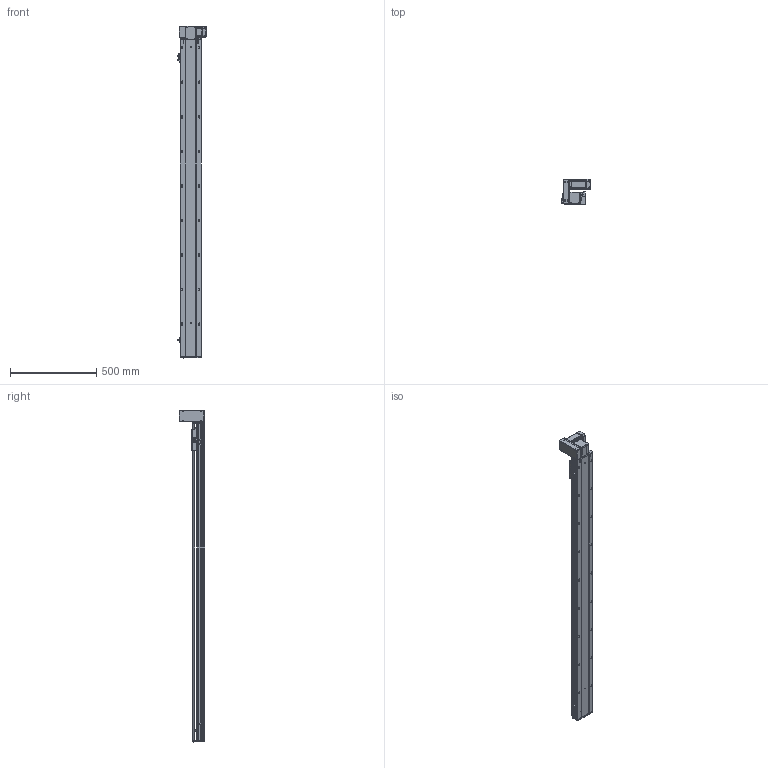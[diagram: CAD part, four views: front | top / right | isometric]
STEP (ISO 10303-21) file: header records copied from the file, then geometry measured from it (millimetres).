
FILE_DESCRIPTION (( 'STEP AP203' ), '1' );
FILE_NAME ('RY120-T-300-UL.SLDASM_1600.step', '2021-03-01T05:37:12', ( '盈信电脑' ), ( '东莞市道滘镇水果街19号' ), 'SwSTEP 2.0', 'SolidWorks 2012', '' );
FILE_SCHEMA (( 'CONFIG_CONTROL_DESIGN' ));
Length unit declared in the file: millimetre
Products named in the file (18): RY120-T-300-UL.SLDASM_1600; RY120-T萇儂欶; RY120-T蹟翐M4; RY120-T翋肮祭謫裔啣; 滅袉蝶18-10; RY120-T萇儂假蚾啣; 侂狟400W侜督萇儂; RY120-T主同步轮轴承压盖; 15; RY120-T翋肮祭盓傅釱; RY120-T肮祭湍揤踡輸2; RY120-T肮祭湍揤踡輸1; 覜茼ん672; RY120綴裔啣; RY120外置感应片(140共用）; RY120肮祭湍臏賑輸; RY120-T-300-UL倰第奻裔啣_1600; RY120-T-300-UL倰第菁釱_1600
Assembly tree (23 placements, depth 3):
  RY120-T-300-UL.SLDASM_1600
    RY120-T-300-UL倰第菁釱_1600
    RY120-T-300-UL倰第奻裔啣_1600
    RY120肮祭湍臏賑輸
    RY120綴裔啣
    覜茼ん672  x3
    RY120外置感应片(140共用）
    RY120-T肮祭湍揤踡輸1
    RY120-T肮祭湍揤踡輸2
    RY120-T翋肮祭盓傅釱
    RY120-T萇儂假蚾啣
    侂狟400W侜督萇儂
      15
    RY120-T主同步轮轴承压盖
    滅袉蝶18-10  x2
    RY120-T萇儂欶
    RY120-T蹟翐M4  x4
    RY120-T翋肮祭謫裔啣
Bounding box: 164.2 x 146 x 1921 mm (x, y, z)
Volume: 4931577.4 mm3; surface area: 1870950 mm2
Topology: 23 solids, 23 shells, 2976 faces, 8124 edges, 5186 vertices
Faces by surface type: plane 1432, cylinder 1162, cone 293, bspline 89
Entity records: 95206 total; most frequent: CARTESIAN_POINT 24482, ORIENTED_EDGE 14592, DIRECTION 13810, EDGE_CURVE 7296, VERTEX_POINT 4773, AXIS2_PLACEMENT_3D 4665, LINE 4480, VECTOR 4480
